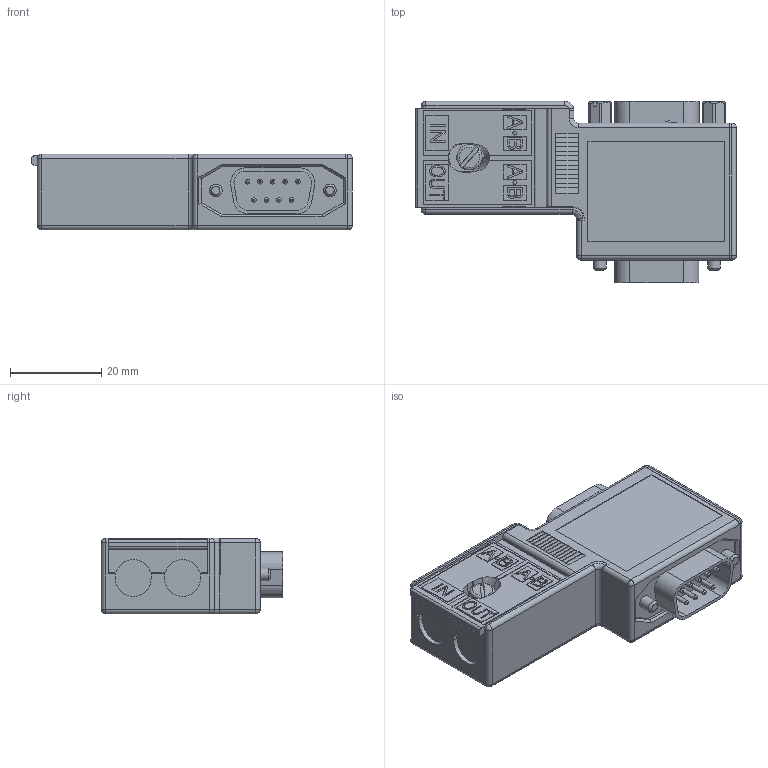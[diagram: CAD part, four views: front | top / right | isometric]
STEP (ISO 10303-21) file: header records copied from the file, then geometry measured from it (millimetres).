
FILE_DESCRIPTION(/* description */ (''),/* implementation_level */ '2;1');
FILE_NAME(/* name */ 'S:\KEE\KE_Daten\31310 Profibusstecker\CAD-Daten\dumme_Teile\31310-012-1301.stp',/* time_stamp */ '2017-05-23T13:55:45+02:00',/* author */ ('beate.reissmann'),/* organization */ (''),/* preprocessor_version */ 'ST-DEVELOPER v16.1',/* originating_system */ 'Autodesk Inventor 2016',/* authorisation */ '');
FILE_SCHEMA (('AUTOMOTIVE_DESIGN { 1 0 10303 214 3 1 1 }'));
Length unit declared in the file: millimetre
Products named in the file (1): 31310-012-1301
Bounding box: 70.25 x 39.75 x 16.6 mm (x, y, z)
Volume: 31180 mm3; surface area: 10057.1 mm2
Topology: 1 solids, 3 shells, 984 faces, 2573 edges, 1662 vertices
Faces by surface type: plane 673, cylinder 154, bspline 70, cone 36, torus 35, sphere 16
Full cylindrical faces by diameter (mm): 1 x18, 1.5 x9, 2.156 x2, 2.4 x2, 2.8 x2, 3.2 x2, 4.4 x1, 5.1 x1, 5.5 x1
Entity records: 31361 total; most frequent: CARTESIAN_POINT 6825, ORIENTED_EDGE 4964, DIRECTION 4540, EDGE_CURVE 2482, LINE 1846, VECTOR 1846, VERTEX_POINT 1649, AXIS2_PLACEMENT_3D 1347
